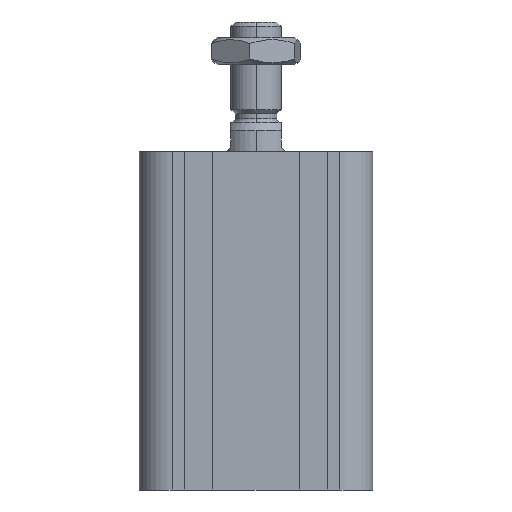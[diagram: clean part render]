
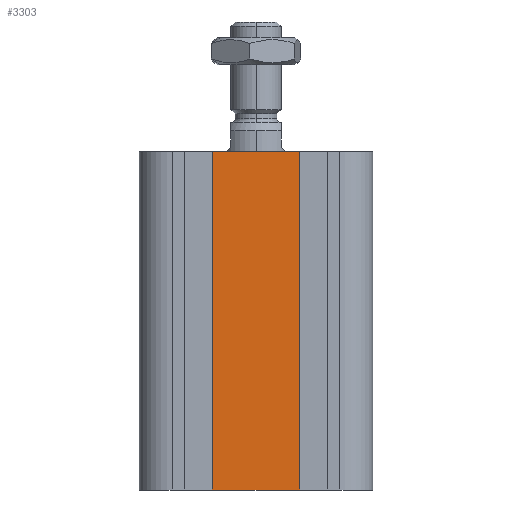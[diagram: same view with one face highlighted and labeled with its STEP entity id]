
A CAD part, front view. The second image highlights one B-rep face of the part: STEP entity #3303.
In plain terms, the highlighted planar face has unit normal (0, -1, 0).
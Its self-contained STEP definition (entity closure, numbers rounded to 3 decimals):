
#632 = LINE ( 'NONE', #19205, #19959 ) ;
#881 = LINE ( 'NONE', #2922, #13224 ) ;
#2300 = LINE ( 'NONE', #12533, #3121 ) ;
#2484 = DIRECTION ( 'NONE',  ( 0., 1., 0. ) ) ;
#2922 = CARTESIAN_POINT ( 'NONE',  ( -6., -10.5, -40.5 ) ) ;
#3121 = VECTOR ( 'NONE', #5826, 1000. ) ;
#3303 = ADVANCED_FACE ( 'NONE', ( #18809 ), #12942, .F. ) ;
#3726 = CARTESIAN_POINT ( 'NONE',  ( -6., -10.5, -40.5 ) ) ;
#5390 = VERTEX_POINT ( 'NONE', #3726 ) ;
#5826 = DIRECTION ( 'NONE',  ( -1., 0., 0. ) ) ;
#6329 = VERTEX_POINT ( 'NONE', #14090 ) ;
#6381 = EDGE_CURVE ( 'NONE', #17483, #5390, #16563, .T. ) ;
#7345 = DIRECTION ( 'NONE',  ( -1., 0., 0. ) ) ;
#7773 = CARTESIAN_POINT ( 'NONE',  ( -6., -10.5, -40.5 ) ) ;
#8510 = CARTESIAN_POINT ( 'NONE',  ( 6., -10.5, 0. ) ) ;
#8930 = DIRECTION ( 'NONE',  ( 0., 0., -1. ) ) ;
#9375 = EDGE_CURVE ( 'NONE', #14874, #6329, #2300, .T. ) ;
#10296 = ORIENTED_EDGE ( 'NONE', *, *, #20338, .T. ) ;
#10377 = EDGE_CURVE ( 'NONE', #14874, #17483, #632, .T. ) ;
#11434 = VECTOR ( 'NONE', #7345, 1000. ) ;
#12533 = CARTESIAN_POINT ( 'NONE',  ( -7.415, -10.5, 0. ) ) ;
#12942 = PLANE ( 'NONE',  #16831 ) ;
#13224 = VECTOR ( 'NONE', #18299, 1000. ) ;
#14090 = CARTESIAN_POINT ( 'NONE',  ( -6., -10.5, 0. ) ) ;
#14874 = VERTEX_POINT ( 'NONE', #8510 ) ;
#16062 = EDGE_LOOP ( 'NONE', ( #10296, #18994, #21998, #18354 ) ) ;
#16563 = LINE ( 'NONE', #17589, #11434 ) ;
#16831 = AXIS2_PLACEMENT_3D ( 'NONE', #7773, #2484, #21475 ) ;
#17483 = VERTEX_POINT ( 'NONE', #21881 ) ;
#17589 = CARTESIAN_POINT ( 'NONE',  ( 6., -10.5, -40.5 ) ) ;
#18299 = DIRECTION ( 'NONE',  ( 0., 0., -1. ) ) ;
#18354 = ORIENTED_EDGE ( 'NONE', *, *, #9375, .T. ) ;
#18809 = FACE_OUTER_BOUND ( 'NONE', #16062, .T. ) ;
#18994 = ORIENTED_EDGE ( 'NONE', *, *, #6381, .F. ) ;
#19205 = CARTESIAN_POINT ( 'NONE',  ( 6., -10.5, -40.5 ) ) ;
#19959 = VECTOR ( 'NONE', #8930, 1000. ) ;
#20338 = EDGE_CURVE ( 'NONE', #6329, #5390, #881, .T. ) ;
#21475 = DIRECTION ( 'NONE',  ( 0., 0., 1. ) ) ;
#21881 = CARTESIAN_POINT ( 'NONE',  ( 6., -10.5, -40.5 ) ) ;
#21998 = ORIENTED_EDGE ( 'NONE', *, *, #10377, .F. ) ;
